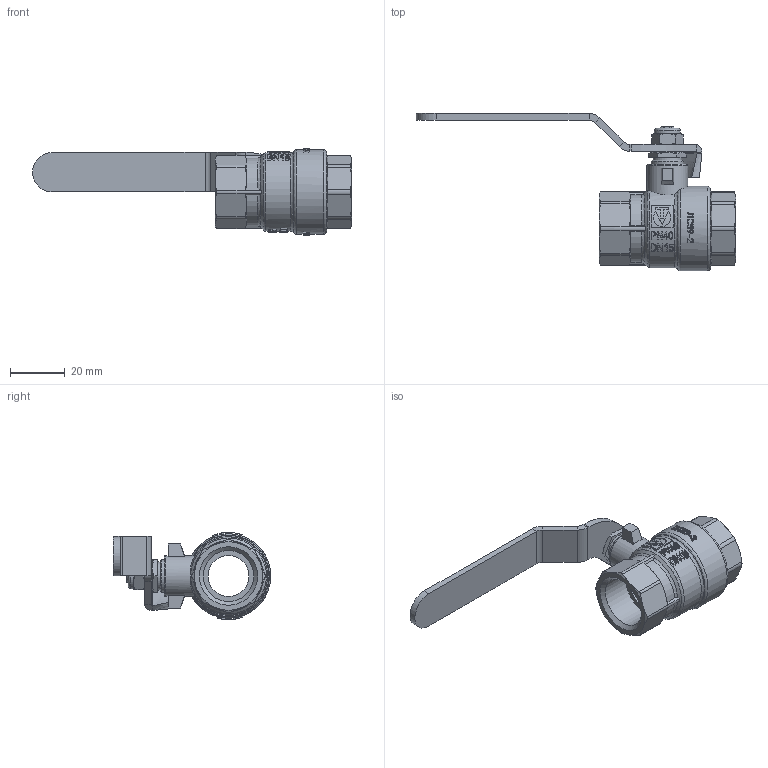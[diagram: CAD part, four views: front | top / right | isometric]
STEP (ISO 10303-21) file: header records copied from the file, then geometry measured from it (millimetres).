
FILE_DESCRIPTION(('STEP AP203'), '1');
FILE_NAME('VT.214S.N.04', '', ('UNSPECIFIED'), ('UNSPECIFIED'), 'C3D Converter', 'C3D Toolkit', '');
FILE_SCHEMA(('CONFIG_CONTROL_DESIGN'));
Length unit declared in the file: millimetre
Products named in the file (1): ВР.491812.050.000-01
Bounding box: 117.02 x 57.68 x 31.9 mm (x, y, z)
Volume: 25961.9 mm3; surface area: 13223.7 mm2
Topology: 1 solids, 1 shells, 1459 faces, 4133 edges, 2727 vertices
Faces by surface type: plane 1298, cylinder 94, cone 53, torus 10, bspline 4
Full cylindrical faces by diameter (mm): 6 x1, 8 x1, 9.5 x1, 10.5 x1, 12 x1, 15 x2, 18.632 x2, 30.9 x1
Entity records: 50235 total; most frequent: CARTESIAN_POINT 18404, ORIENTED_EDGE 8218, DIRECTION 5210, EDGE_CURVE 4109, VERTEX_POINT 2726, AXIS2_PLACEMENT_3D 1807, LINE 1596, VECTOR 1596
